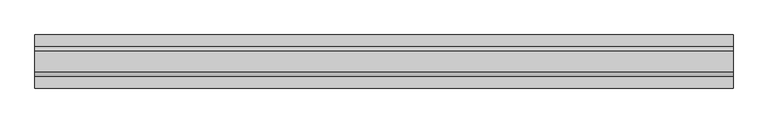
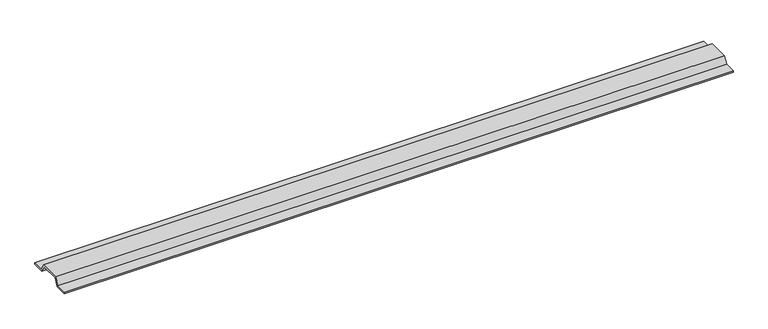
"""IFC4 building model written with IfcOpenShell, lengths in millimetres: beam geometry, B-Deck_Single_Flute_3d_14388 : B-Deck_Single_Flute_3d_14388."""

from ifc_helpers import new_model, si_unit, frame, origin, place, context, project, spatial, polyline, outline, extrude, source, transform, mapped, element, save


def beam_e3502a18(model_context):
    return source(origin(), model_context, "Body", "SweptSolid", [
        extrude(outline(polyline([(101.6, 6.35), (101.6, 0.0), (53.9397353, 0.0), (38.0647353, 27.4963066), (-38.0647353, 27.4963066), (-53.9397353, 0.0), (-101.6, 0.0), (-101.6, 6.35), (-57.6059095, 6.35), (-41.7309095, 33.8463066), (41.7309095, 33.8463066), (57.6059095, 6.35), (101.6, 6.35)])), frame((-1397.0, 0.0, 0.0), z_axis=(1.0, 0.0, 0.0), x_axis=(0.0, 1.0, 0.0)), (0.0, 0.0, 1.0), 2670.175),
    ])


if __name__ == "__main__":
    model = new_model("IFC4")
    model_context = context("Model", 3, world=origin())
    ifc_project = project(units=[si_unit("LENGTHUNIT", "METRE", prefix="MILLI")], contexts=[model_context])
    site = spatial("IfcSite", under=ifc_project)
    building = spatial("IfcBuilding", under=site)
    placement = place(None, origin())
    beam_shape = beam_e3502a18(model_context)
    element("IfcBeam", 1, ObjectType="B-Deck_Single_Flute_3d_14388 : B-Deck_Single_Flute_3d_14388", at=placement, inside=building, context=model_context, shape_type="MappedRepresentation", body=[
        mapped(beam_shape, transform((0.0, 0.0, 0.0), x_axis=(1.0, 0.0, 0.0), y_axis=(0.0, 1.0, 0.0), z_axis=(0.0, 0.0, 1.0))),
    ])
    save(model, "model.ifc")
